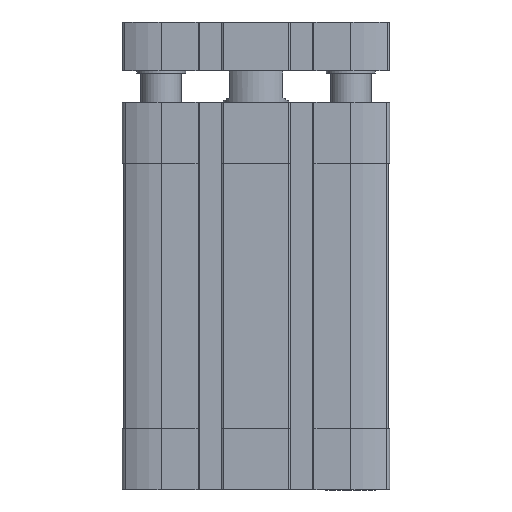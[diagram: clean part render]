
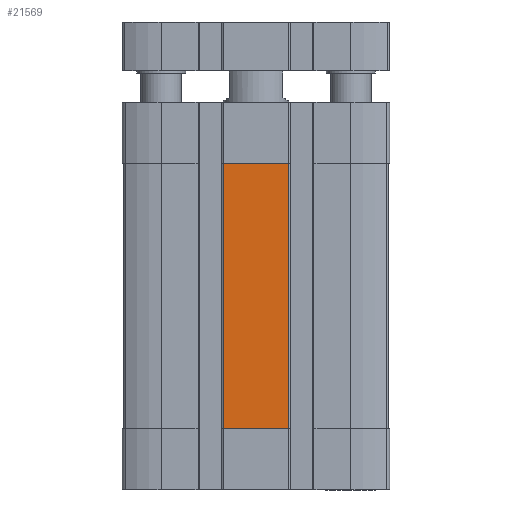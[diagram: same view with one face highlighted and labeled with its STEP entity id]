
A CAD part, left-side view. The second image highlights one B-rep face of the part: STEP entity #21569.
In plain terms, the highlighted planar face has unit normal (-1, 0, 0) as drawn and (0, 1, 0) by its records, which use the part's own axes.
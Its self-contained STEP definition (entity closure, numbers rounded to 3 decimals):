
#250 = LINE ( 'NONE', #11202, #8604 ) ;
#416 = VERTEX_POINT ( 'NONE', #7442 ) ;
#514 = DIRECTION ( 'NONE',  ( -1., 0., 0. ) ) ;
#998 = ORIENTED_EDGE ( 'NONE', *, *, #8961, .T. ) ;
#2691 = CARTESIAN_POINT ( 'NONE',  ( -8., 32.5, -15. ) ) ;
#3471 = CARTESIAN_POINT ( 'NONE',  ( 8., 32.5, -15. ) ) ;
#4321 = VECTOR ( 'NONE', #16987, 1000. ) ;
#4550 = ORIENTED_EDGE ( 'NONE', *, *, #16911, .T. ) ;
#4761 = DIRECTION ( 'NONE',  ( 0., 0., 1. ) ) ;
#6671 = VECTOR ( 'NONE', #9255, 1000. ) ;
#7442 = CARTESIAN_POINT ( 'NONE',  ( -8., 32.5, -80. ) ) ;
#8110 = CARTESIAN_POINT ( 'NONE',  ( 8., 32.5, -80. ) ) ;
#8365 = VERTEX_POINT ( 'NONE', #20048 ) ;
#8604 = VECTOR ( 'NONE', #514, 1000. ) ;
#8961 = EDGE_CURVE ( 'NONE', #8365, #416, #250, .T. ) ;
#9255 = DIRECTION ( 'NONE',  ( 1., 0., 0. ) ) ;
#9846 = CARTESIAN_POINT ( 'NONE',  ( -8., 32.5, -80. ) ) ;
#9915 = DIRECTION ( 'NONE',  ( 0., 0., -1. ) ) ;
#10443 = EDGE_LOOP ( 'NONE', ( #998, #15671, #4550, #19286 ) ) ;
#11079 = CARTESIAN_POINT ( 'NONE',  ( 0., 32.5, -15. ) ) ;
#11202 = CARTESIAN_POINT ( 'NONE',  ( 8., 32.5, -80. ) ) ;
#11549 = EDGE_CURVE ( 'NONE', #17960, #8365, #20732, .T. ) ;
#12722 = LINE ( 'NONE', #9846, #4321 ) ;
#13215 = FACE_OUTER_BOUND ( 'NONE', #10443, .T. ) ;
#13396 = AXIS2_PLACEMENT_3D ( 'NONE', #18985, #15483, #4761 ) ;
#15483 = DIRECTION ( 'NONE',  ( 0., 1., 0. ) ) ;
#15671 = ORIENTED_EDGE ( 'NONE', *, *, #19444, .T. ) ;
#16214 = LINE ( 'NONE', #11079, #6671 ) ;
#16911 = EDGE_CURVE ( 'NONE', #19423, #17960, #16214, .T. ) ;
#16987 = DIRECTION ( 'NONE',  ( 0., 0., 1. ) ) ;
#17960 = VERTEX_POINT ( 'NONE', #3471 ) ;
#18985 = CARTESIAN_POINT ( 'NONE',  ( 8., 32.5, -80. ) ) ;
#19286 = ORIENTED_EDGE ( 'NONE', *, *, #11549, .T. ) ;
#19423 = VERTEX_POINT ( 'NONE', #2691 ) ;
#19444 = EDGE_CURVE ( 'NONE', #416, #19423, #12722, .T. ) ;
#20048 = CARTESIAN_POINT ( 'NONE',  ( 8., 32.5, -80. ) ) ;
#20157 = VECTOR ( 'NONE', #9915, 1000. ) ;
#20732 = LINE ( 'NONE', #8110, #20157 ) ;
#21569 = ADVANCED_FACE ( 'NONE', ( #13215 ), #22560, .T. ) ;
#22560 = PLANE ( 'NONE',  #13396 ) ;
